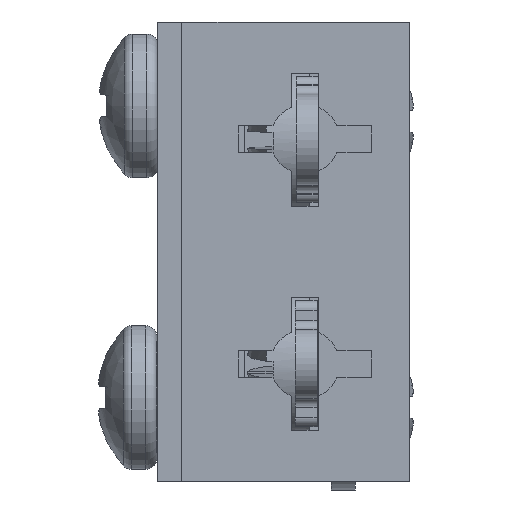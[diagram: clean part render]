
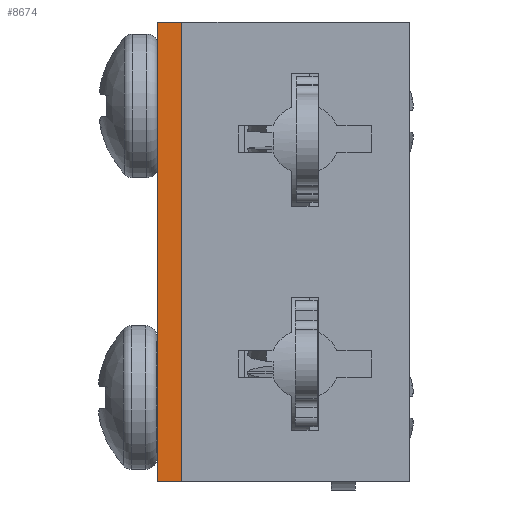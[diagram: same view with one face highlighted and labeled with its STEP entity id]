
A CAD part, left-side view. The second image highlights one B-rep face of the part: STEP entity #8674.
In plain terms, the highlighted planar face has unit normal (-1, 0, 0) as drawn and (0, 0, 1) by its records, which use the part's own axes.
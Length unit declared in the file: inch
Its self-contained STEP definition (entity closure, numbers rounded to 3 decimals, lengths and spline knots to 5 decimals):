
#1274=FACE_OUTER_BOUND('',#1798,.T.);
#1798=EDGE_LOOP('',(#7257,#7258,#7259,#7260));
#2521=LINE('',#14308,#3255);
#2524=LINE('',#14313,#3258);
#2526=LINE('',#14317,#3260);
#2529=LINE('',#14321,#3263);
#3255=VECTOR('',#11681,0.3937);
#3258=VECTOR('',#11686,0.3937);
#3260=VECTOR('',#11690,0.3937);
#3263=VECTOR('',#11695,0.3937);
#3991=VERTEX_POINT('',#14305);
#3992=VERTEX_POINT('',#14307);
#3993=VERTEX_POINT('',#14312);
#3994=VERTEX_POINT('',#14316);
#5121=EDGE_CURVE('',#3992,#3991,#2521,.T.);
#5124=EDGE_CURVE('',#3993,#3992,#2524,.T.);
#5126=EDGE_CURVE('',#3994,#3993,#2526,.T.);
#5129=EDGE_CURVE('',#3991,#3994,#2529,.T.);
#7257=ORIENTED_EDGE('',*,*,#5129,.T.);
#7258=ORIENTED_EDGE('',*,*,#5126,.T.);
#7259=ORIENTED_EDGE('',*,*,#5124,.T.);
#7260=ORIENTED_EDGE('',*,*,#5121,.T.);
#8296=PLANE('',#9643);
#8674=ADVANCED_FACE('',(#1274),#8296,.T.);
#9643=AXIS2_PLACEMENT_3D('',#14322,#11696,#11697);
#11681=DIRECTION('',(0.,1.,0.));
#11686=DIRECTION('',(1.,0.,0.));
#11690=DIRECTION('',(0.,-1.,0.));
#11695=DIRECTION('',(-1.,0.,0.));
#11696=DIRECTION('center_axis',(0.,0.,1.));
#11697=DIRECTION('ref_axis',(1.,0.,0.));
#14305=CARTESIAN_POINT('',(0.315,0.13006,0.78222));
#14307=CARTESIAN_POINT('',(0.315,0.09706,0.78222));
#14308=CARTESIAN_POINT('',(0.315,0.09706,0.78222));
#14312=CARTESIAN_POINT('',(-0.315,0.09706,0.78222));
#14313=CARTESIAN_POINT('',(-0.315,0.09706,0.78222));
#14316=CARTESIAN_POINT('',(-0.315,0.13006,0.78222));
#14317=CARTESIAN_POINT('',(-0.315,0.13006,0.78222));
#14321=CARTESIAN_POINT('',(0.315,0.13006,0.78222));
#14322=CARTESIAN_POINT('Origin',(0.,0.11356,
0.78222));
